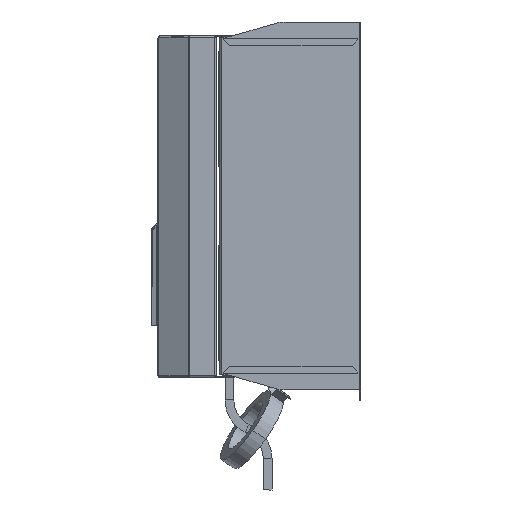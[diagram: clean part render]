
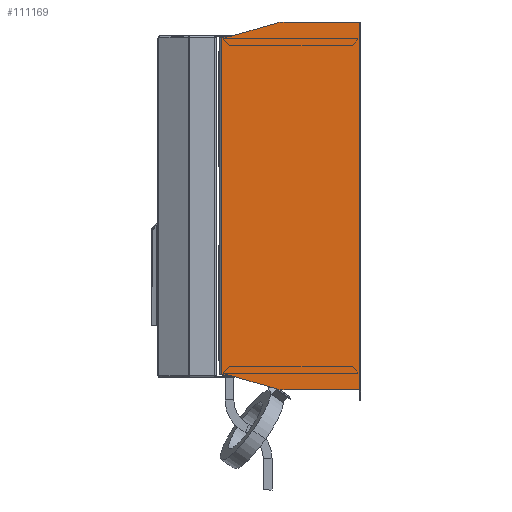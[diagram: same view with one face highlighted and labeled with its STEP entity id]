
A CAD part, left-side view. The second image highlights one B-rep face of the part: STEP entity #111169.
In plain terms, the highlighted planar face has unit normal (-1, 0, 0).
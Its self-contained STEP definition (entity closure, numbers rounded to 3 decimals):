
#2945 = AXIS2_PLACEMENT_3D ( 'NONE', #128801, #128802, #128803 ) ;
#9624 = EDGE_CURVE ( 'NONE', #146579, #146628, #93453, .T. ) ;
#9835 = EDGE_CURVE ( 'NONE', #146585, #146610, #93342, .T. ) ;
#10823 = EDGE_CURVE ( 'NONE', #146519, #146604, #92685, .T. ) ;
#11407 = EDGE_CURVE ( 'NONE', #146560, #146579, #92132, .T. ) ;
#12137 = EDGE_CURVE ( 'NONE', #146628, #146621, #93522, .T. ) ;
#12578 = EDGE_CURVE ( 'NONE', #146585, #146595, #92667, .T. ) ;
#12791 = EDGE_CURVE ( 'NONE', #146604, #146610, #92154, .T. ) ;
#13015 = EDGE_CURVE ( 'NONE', #146519, #146562, #93095, .T. ) ;
#13057 = EDGE_CURVE ( 'NONE', #146562, #146560, #92699, .T. ) ;
#14474 = EDGE_CURVE ( 'NONE', #146595, #146582, #79534, .T. ) ;
#14770 = EDGE_CURVE ( 'NONE', #146601, #146621, #79315, .T. ) ;
#16106 = EDGE_CURVE ( 'NONE', #146582, #146601, #92928, .T. ) ;
#79315 = LINE ( 'NONE', #102226, #79799 ) ;
#79531 = VECTOR ( 'NONE', #102580, 1000. ) ;
#79534 = LINE ( 'NONE', #100054, #79531 ) ;
#79799 = VECTOR ( 'NONE', #102222, 1000. ) ;
#82820 = CARTESIAN_POINT ( 'NONE',  ( -215., 197.146, 243. ) ) ;
#82853 = CARTESIAN_POINT ( 'NONE',  ( -215., 121.913, 263.383 ) ) ;
#82854 = CARTESIAN_POINT ( 'NONE',  ( -215., 185.887, 244.617 ) ) ;
#82860 = CARTESIAN_POINT ( 'NONE',  ( -215., 110.654, 265. ) ) ;
#82864 = CARTESIAN_POINT ( 'NONE',  ( -215., 121.913, -263.383 ) ) ;
#82866 = CARTESIAN_POINT ( 'NONE',  ( -215., 197.146, -243. ) ) ;
#82872 = CARTESIAN_POINT ( 'NONE',  ( -215., 185.887, -244.617 ) ) ;
#82875 = CARTESIAN_POINT ( 'NONE',  ( -215., 110.654, -265. ) ) ;
#82876 = CARTESIAN_POINT ( 'NONE',  ( -215., 200.6, 243. ) ) ;
#82879 = CARTESIAN_POINT ( 'NONE',  ( -215., 200.6, -243. ) ) ;
#82886 = CARTESIAN_POINT ( 'NONE',  ( -215., 2.4, -265. ) ) ;
#82888 = CARTESIAN_POINT ( 'NONE',  ( -215., 2.4, 265. ) ) ;
#87866 = DIRECTION ( 'NONE',  ( 0., 0., 1. ) ) ;
#87873 = DIRECTION ( 'NONE',  ( -1., 0., 0. ) ) ;
#87876 = CARTESIAN_POINT ( 'NONE',  ( -215., 110.654, -225. ) ) ;
#92132 = CIRCLE ( 'NONE', #153351, 40. ) ;
#92146 = VECTOR ( 'NONE', #139918, 1000. ) ;
#92154 = LINE ( 'NONE', #139902, #92146 ) ;
#92611 = VECTOR ( 'NONE', #139452, 1000. ) ;
#92667 = CIRCLE ( 'NONE', #153319, 40. ) ;
#92683 = VECTOR ( 'NONE', #161097, 1000. ) ;
#92685 = LINE ( 'NONE', #161106, #92683 ) ;
#92699 = LINE ( 'NONE', #139457, #92611 ) ;
#92928 = CIRCLE ( 'NONE', #152946, 40. ) ;
#93095 = CIRCLE ( 'NONE', #153211, 40. ) ;
#93338 = VECTOR ( 'NONE', #176567, 1000. ) ;
#93342 = LINE ( 'NONE', #176572, #93338 ) ;
#93452 = VECTOR ( 'NONE', #176930, 1000. ) ;
#93453 = LINE ( 'NONE', #176943, #93452 ) ;
#93522 = LINE ( 'NONE', #158639, #93523 ) ;
#93523 = VECTOR ( 'NONE', #158631, 1000. ) ;
#96111 = EDGE_LOOP ( 'NONE', ( #131023, #131024, #131025, #131026, #131027, #131028, #131029, #131030, #131031, #131032, #131033, #131034 ) ) ;
#100054 = CARTESIAN_POINT ( 'NONE',  ( -215., 146.429, -256.191 ) ) ;
#102222 = DIRECTION ( 'NONE',  ( 0., -1., 0. ) ) ;
#102226 = CARTESIAN_POINT ( 'NONE',  ( -215., 1.6, -265. ) ) ;
#102580 = DIRECTION ( 'NONE',  ( 0., -0.96, -0.281 ) ) ;
#111169 = ADVANCED_FACE ( 'NONE', ( #129250 ), #128775, .T. ) ;
#128775 = PLANE ( 'NONE',  #2945 ) ;
#128801 = CARTESIAN_POINT ( 'NONE',  ( -215., 0., 243. ) ) ;
#128802 = DIRECTION ( 'NONE',  ( -1., 0., 0. ) ) ;
#128803 = DIRECTION ( 'NONE',  ( 0., 0., 1. ) ) ;
#129250 = FACE_OUTER_BOUND ( 'NONE', #96111, .T. ) ;
#131023 = ORIENTED_EDGE ( 'NONE', *, *, #10823, .T. ) ;
#131024 = ORIENTED_EDGE ( 'NONE', *, *, #12791, .T. ) ;
#131025 = ORIENTED_EDGE ( 'NONE', *, *, #9835, .F. ) ;
#131026 = ORIENTED_EDGE ( 'NONE', *, *, #12578, .T. ) ;
#131027 = ORIENTED_EDGE ( 'NONE', *, *, #14474, .T. ) ;
#131028 = ORIENTED_EDGE ( 'NONE', *, *, #16106, .T. ) ;
#131029 = ORIENTED_EDGE ( 'NONE', *, *, #14770, .T. ) ;
#131030 = ORIENTED_EDGE ( 'NONE', *, *, #12137, .F. ) ;
#131031 = ORIENTED_EDGE ( 'NONE', *, *, #9624, .F. ) ;
#131032 = ORIENTED_EDGE ( 'NONE', *, *, #11407, .F. ) ;
#131033 = ORIENTED_EDGE ( 'NONE', *, *, #13057, .F. ) ;
#131034 = ORIENTED_EDGE ( 'NONE', *, *, #13015, .F. ) ;
#139452 = DIRECTION ( 'NONE',  ( 0., -0.96, 0.281 ) ) ;
#139457 = CARTESIAN_POINT ( 'NONE',  ( -215., 15.164, 294.696 ) ) ;
#139716 = DIRECTION ( 'NONE',  ( 0., 0., 1. ) ) ;
#139718 = DIRECTION ( 'NONE',  ( -1., 0., 0. ) ) ;
#139721 = CARTESIAN_POINT ( 'NONE',  ( -215., 197.146, 283. ) ) ;
#139902 = CARTESIAN_POINT ( 'NONE',  ( -215., 200.6, -243. ) ) ;
#139918 = DIRECTION ( 'NONE',  ( 0., 0., -1. ) ) ;
#146519 = VERTEX_POINT ( 'NONE', #82820 ) ;
#146560 = VERTEX_POINT ( 'NONE', #82853 ) ;
#146562 = VERTEX_POINT ( 'NONE', #82854 ) ;
#146579 = VERTEX_POINT ( 'NONE', #82860 ) ;
#146582 = VERTEX_POINT ( 'NONE', #82864 ) ;
#146585 = VERTEX_POINT ( 'NONE', #82866 ) ;
#146595 = VERTEX_POINT ( 'NONE', #82872 ) ;
#146601 = VERTEX_POINT ( 'NONE', #82875 ) ;
#146604 = VERTEX_POINT ( 'NONE', #82876 ) ;
#146610 = VERTEX_POINT ( 'NONE', #82879 ) ;
#146621 = VERTEX_POINT ( 'NONE', #82886 ) ;
#146628 = VERTEX_POINT ( 'NONE', #82888 ) ;
#152946 = AXIS2_PLACEMENT_3D ( 'NONE', #87876, #87873, #87866 ) ;
#153211 = AXIS2_PLACEMENT_3D ( 'NONE', #139721, #139718, #139716 ) ;
#153319 = AXIS2_PLACEMENT_3D ( 'NONE', #156542, #156539, #156537 ) ;
#153351 = AXIS2_PLACEMENT_3D ( 'NONE', #158296, #158293, #158290 ) ;
#156537 = DIRECTION ( 'NONE',  ( 0., 0., 1. ) ) ;
#156539 = DIRECTION ( 'NONE',  ( 1., 0., 0. ) ) ;
#156542 = CARTESIAN_POINT ( 'NONE',  ( -215., 197.146, -283. ) ) ;
#158290 = DIRECTION ( 'NONE',  ( 0., 0., 1. ) ) ;
#158293 = DIRECTION ( 'NONE',  ( 1., 0., 0. ) ) ;
#158296 = CARTESIAN_POINT ( 'NONE',  ( -215., 110.654, 225. ) ) ;
#158631 = DIRECTION ( 'NONE',  ( 0., 0., -1. ) ) ;
#158639 = CARTESIAN_POINT ( 'NONE',  ( -215., 2.4, -265. ) ) ;
#161097 = DIRECTION ( 'NONE',  ( 0., 1., 0. ) ) ;
#161106 = CARTESIAN_POINT ( 'NONE',  ( -215., 0., 243. ) ) ;
#176567 = DIRECTION ( 'NONE',  ( 0., 1., 0. ) ) ;
#176572 = CARTESIAN_POINT ( 'NONE',  ( -215., 0., -243. ) ) ;
#176930 = DIRECTION ( 'NONE',  ( 0., -1., 0. ) ) ;
#176943 = CARTESIAN_POINT ( 'NONE',  ( -215., 1.6, 265. ) ) ;
